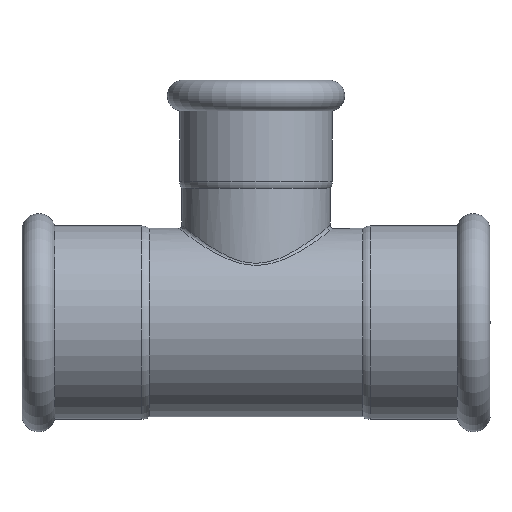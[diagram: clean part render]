
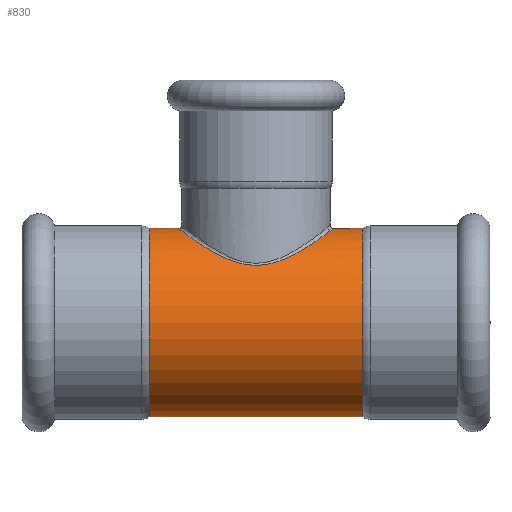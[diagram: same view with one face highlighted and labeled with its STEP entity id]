
A CAD part, front view. The second image highlights one B-rep face of the part: STEP entity #830.
In plain terms, the highlighted cylindrical face has radius 28 mm (diameter 56 mm), a full revolution.
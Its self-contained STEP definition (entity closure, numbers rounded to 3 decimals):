
#20=B_SPLINE_CURVE_WITH_KNOTS('',3,(#1873,#1874,#1875,#1876,#1877,#1878,
#1879,#1880,#1881,#1882,#1883,#1884,#1885,#1886,#1887,#1888,#1889,#1890,
#1891,#1892,#1893,#1894,#1895,#1896,#1897),.UNSPECIFIED.,.T.,.F.,(4,1,1,
1,1,1,1,1,1,1,1,1,1,1,1,1,1,1,1,1,1,1,4),(-14.156,-13.651,
-13.145,-12.134,-11.46,-10.786,
-10.112,-9.438,-8.764,-8.089,
-7.415,-7.078,-6.741,-6.067,
-5.393,-4.719,-4.045,-3.371,
-2.696,-2.022,-1.011,-0.506,
0.),.UNSPECIFIED.);
#28=FACE_BOUND('',#157,.T.);
#45=LINE('',#1909,#67);
#67=VECTOR('',#1235,28.);
#86=CYLINDRICAL_SURFACE('',#965,28.);
#116=FACE_OUTER_BOUND('',#156,.T.);
#156=EDGE_LOOP('',(#687,#688,#689,#690,#691,#692,#693,#694));
#157=EDGE_LOOP('',(#695));
#249=CIRCLE('',#966,28.);
#250=CIRCLE('',#967,28.);
#251=CIRCLE('',#968,28.);
#252=CIRCLE('',#969,28.);
#253=CIRCLE('',#970,28.);
#254=CIRCLE('',#971,28.);
#351=VERTEX_POINT('',#1840);
#355=VERTEX_POINT('',#1903);
#356=VERTEX_POINT('',#1904);
#357=VERTEX_POINT('',#1906);
#358=VERTEX_POINT('',#1908);
#359=VERTEX_POINT('',#1910);
#360=VERTEX_POINT('',#1912);
#476=EDGE_CURVE('',#351,#351,#20,.T.);
#479=EDGE_CURVE('',#355,#356,#249,.T.);
#480=EDGE_CURVE('',#357,#355,#250,.T.);
#481=EDGE_CURVE('',#357,#358,#45,.T.);
#482=EDGE_CURVE('',#358,#359,#251,.T.);
#483=EDGE_CURVE('',#359,#360,#252,.T.);
#484=EDGE_CURVE('',#360,#358,#253,.T.);
#485=EDGE_CURVE('',#356,#357,#254,.T.);
#687=ORIENTED_EDGE('',*,*,#479,.F.);
#688=ORIENTED_EDGE('',*,*,#480,.F.);
#689=ORIENTED_EDGE('',*,*,#481,.T.);
#690=ORIENTED_EDGE('',*,*,#482,.T.);
#691=ORIENTED_EDGE('',*,*,#483,.T.);
#692=ORIENTED_EDGE('',*,*,#484,.T.);
#693=ORIENTED_EDGE('',*,*,#481,.F.);
#694=ORIENTED_EDGE('',*,*,#485,.F.);
#695=ORIENTED_EDGE('',*,*,#476,.F.);
#830=ADVANCED_FACE('',(#116,#28),#86,.T.);
#965=AXIS2_PLACEMENT_3D('',#1902,#1229,#1230);
#966=AXIS2_PLACEMENT_3D('',#1905,#1231,#1232);
#967=AXIS2_PLACEMENT_3D('',#1907,#1233,#1234);
#968=AXIS2_PLACEMENT_3D('',#1911,#1236,#1237);
#969=AXIS2_PLACEMENT_3D('',#1913,#1238,#1239);
#970=AXIS2_PLACEMENT_3D('',#1914,#1240,#1241);
#971=AXIS2_PLACEMENT_3D('',#1915,#1242,#1243);
#1229=DIRECTION('center_axis',(1.,0.,0.));
#1230=DIRECTION('ref_axis',(0.,1.,0.));
#1231=DIRECTION('center_axis',(1.,0.,0.));
#1232=DIRECTION('ref_axis',(0.,1.,0.));
#1233=DIRECTION('center_axis',(1.,0.,0.));
#1234=DIRECTION('ref_axis',(0.,1.,0.));
#1235=DIRECTION('',(-1.,0.,0.));
#1236=DIRECTION('center_axis',(1.,0.,0.));
#1237=DIRECTION('ref_axis',(0.,1.,0.));
#1238=DIRECTION('center_axis',(1.,0.,0.));
#1239=DIRECTION('ref_axis',(0.,1.,0.));
#1240=DIRECTION('center_axis',(1.,0.,0.));
#1241=DIRECTION('ref_axis',(0.,1.,0.));
#1242=DIRECTION('center_axis',(1.,0.,0.));
#1243=DIRECTION('ref_axis',(0.,1.,0.));
#1840=CARTESIAN_POINT('',(0.,22.207,17.054));
#1873=CARTESIAN_POINT('Ctrl Pts',(0.,22.207,17.054));
#1874=CARTESIAN_POINT('Ctrl Pts',(-1.821,22.207,17.054));
#1875=CARTESIAN_POINT('Ctrl Pts',(-5.448,21.778,17.63));
#1876=CARTESIAN_POINT('Ctrl Pts',(-11.835,19.502,20.268));
#1877=CARTESIAN_POINT('Ctrl Pts',(-17.41,15.237,23.876));
#1878=CARTESIAN_POINT('Ctrl Pts',(-21.578,8.643,26.905));
#1879=CARTESIAN_POINT('Ctrl Pts',(-23.319,1.807,28.248));
#1880=CARTESIAN_POINT('Ctrl Pts',(-22.719,-5.337,27.78));
#1881=CARTESIAN_POINT('Ctrl Pts',(-19.982,-11.638,25.718));
#1882=CARTESIAN_POINT('Ctrl Pts',(-15.724,-16.607,22.751));
#1883=CARTESIAN_POINT('Ctrl Pts',(-10.335,-20.18,19.558));
#1884=CARTESIAN_POINT('Ctrl Pts',(-4.86,-21.921,17.434));
#1885=CARTESIAN_POINT('Ctrl Pts',(0.,-22.303,
16.927));
#1886=CARTESIAN_POINT('Ctrl Pts',(4.858,-21.922,17.433));
#1887=CARTESIAN_POINT('Ctrl Pts',(10.333,-20.181,19.557));
#1888=CARTESIAN_POINT('Ctrl Pts',(15.725,-16.607,22.751));
#1889=CARTESIAN_POINT('Ctrl Pts',(19.981,-11.639,25.717));
#1890=CARTESIAN_POINT('Ctrl Pts',(22.719,-5.338,27.781));
#1891=CARTESIAN_POINT('Ctrl Pts',(23.319,1.806,28.248));
#1892=CARTESIAN_POINT('Ctrl Pts',(21.578,8.643,26.905));
#1893=CARTESIAN_POINT('Ctrl Pts',(17.411,15.235,23.877));
#1894=CARTESIAN_POINT('Ctrl Pts',(11.835,19.503,20.268));
#1895=CARTESIAN_POINT('Ctrl Pts',(5.448,21.778,17.63));
#1896=CARTESIAN_POINT('Ctrl Pts',(1.821,22.207,17.054));
#1897=CARTESIAN_POINT('Ctrl Pts',(0.,22.207,
17.054));
#1902=CARTESIAN_POINT('Origin',(26.817,0.,0.));
#1903=CARTESIAN_POINT('',(31.735,28.,0.));
#1904=CARTESIAN_POINT('',(31.735,0.,28.));
#1905=CARTESIAN_POINT('Origin',(31.735,0.,0.));
#1906=CARTESIAN_POINT('',(31.735,-28.,0.));
#1907=CARTESIAN_POINT('Origin',(31.735,0.,0.));
#1908=CARTESIAN_POINT('',(-31.735,-28.,0.));
#1909=CARTESIAN_POINT('',(26.817,-28.,0.));
#1910=CARTESIAN_POINT('',(-31.735,28.,0.));
#1911=CARTESIAN_POINT('Origin',(-31.735,0.,0.));
#1912=CARTESIAN_POINT('',(-31.735,0.,28.));
#1913=CARTESIAN_POINT('Origin',(-31.735,0.,0.));
#1914=CARTESIAN_POINT('Origin',(-31.735,0.,0.));
#1915=CARTESIAN_POINT('Origin',(31.735,0.,0.));
